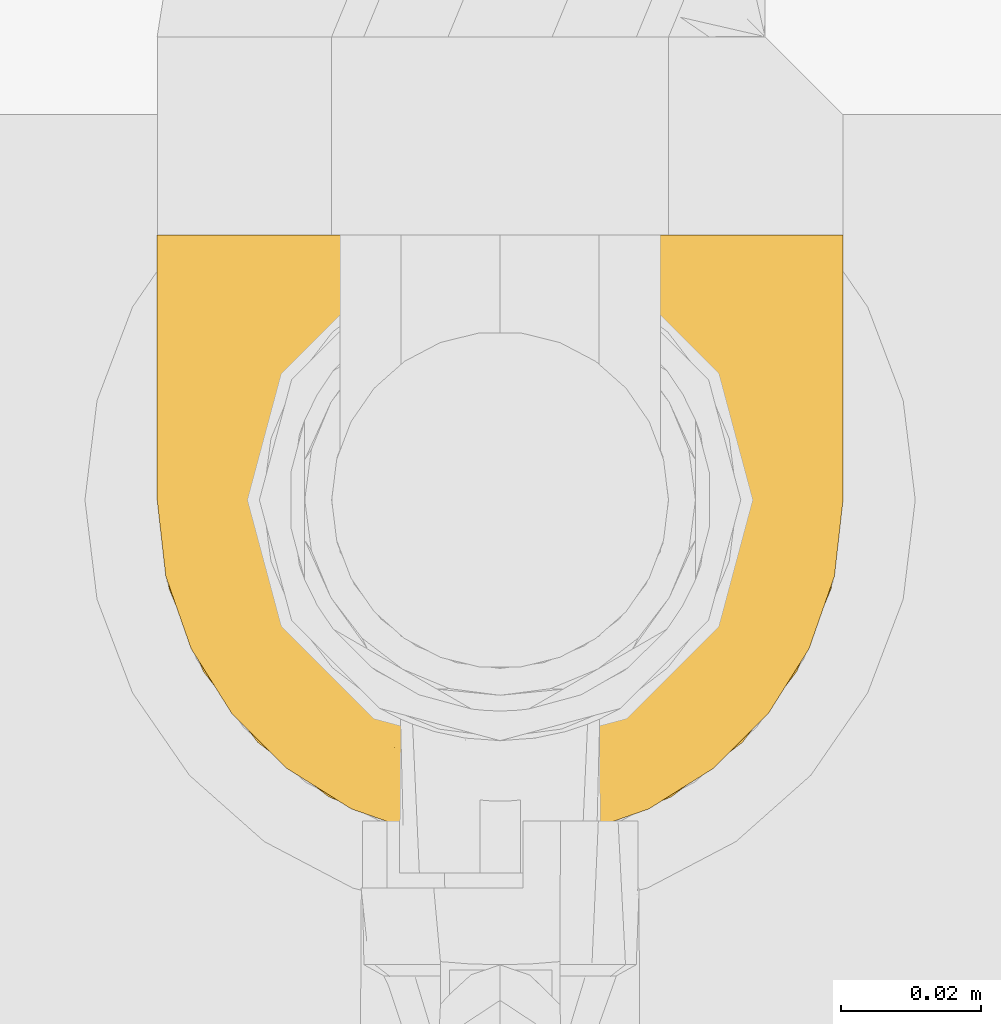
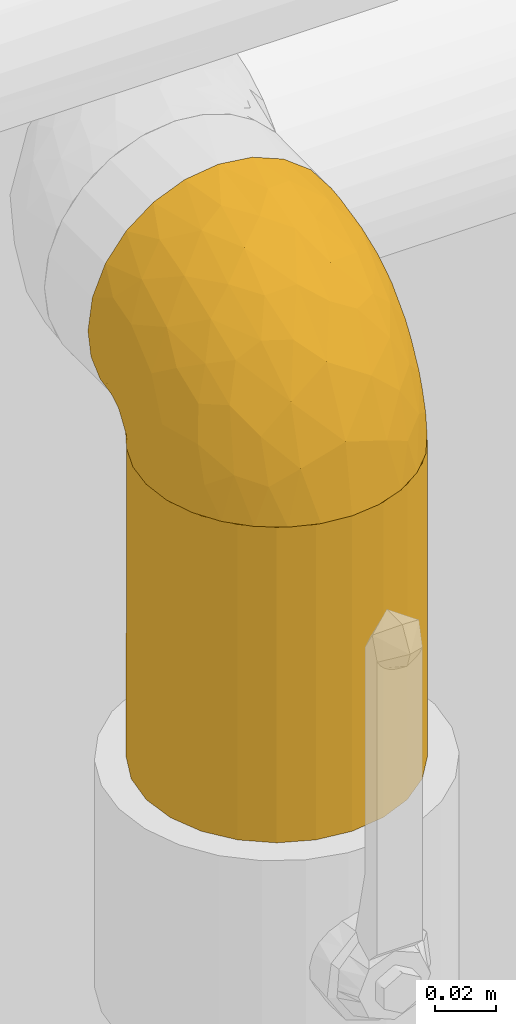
# One storey, part 22 of 94: 2 coverings.
"""IFC2X3 building model written with IfcOpenShell, lengths in millimetres."""

from ifc_helpers import new_model, entity, si_unit, converted_unit, derived_unit, direction, frame, origin, place, context, subcontext, project, spatial, faceted_brep, material, element, save


model = new_model("IFC2X3")

# Units and contexts
model_context = context("Model", 3, precision=0.01, world=origin(), true_north=direction((6.123031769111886e-17, 1.0)))
body_context = subcontext(model_context, "Body", "Model", "MODEL_VIEW")
ifc_project = project(units=[si_unit("LENGTHUNIT", "METRE", prefix="MILLI"), si_unit("AREAUNIT", "SQUARE_METRE"), si_unit("VOLUMEUNIT", "CUBIC_METRE"), converted_unit("PLANEANGLEUNIT", "DEGREE", entity("IfcRatioMeasure", 0.017453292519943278), si_unit("PLANEANGLEUNIT", "RADIAN"), dimensions=[0, 0, 0, 0, 0, 0, 0]), si_unit("MASSUNIT", "GRAM", prefix="KILO"), derived_unit("MASSDENSITYUNIT", [(si_unit("MASSUNIT", "GRAM", prefix="KILO"), 1), (si_unit("LENGTHUNIT", "METRE"), -3)]), derived_unit("IONCONCENTRATIONUNIT", [(si_unit("MASSUNIT", "GRAM", prefix="KILO"), 1), (si_unit("LENGTHUNIT", "METRE"), -3)]), derived_unit("MOMENTOFINERTIAUNIT", [(si_unit("LENGTHUNIT", "METRE"), 4)]), si_unit("TIMEUNIT", "SECOND"), si_unit("FREQUENCYUNIT", "HERTZ"), si_unit("THERMODYNAMICTEMPERATUREUNIT", "DEGREE_CELSIUS"), derived_unit("THERMALTRANSMITTANCEUNIT", [(si_unit("MASSUNIT", "GRAM", prefix="KILO"), 1), (si_unit("THERMODYNAMICTEMPERATUREUNIT", "KELVIN"), -1), (si_unit("TIMEUNIT", "SECOND"), -3)]), derived_unit("THERMALCONDUCTANCEUNIT", [(si_unit("MASSUNIT", "GRAM", prefix="KILO"), 1), (si_unit("THERMODYNAMICTEMPERATUREUNIT", "KELVIN"), -1), (si_unit("TIMEUNIT", "SECOND"), -3), (si_unit("LENGTHUNIT", "METRE"), 1)]), derived_unit("VOLUMETRICFLOWRATEUNIT", [(si_unit("LENGTHUNIT", "METRE"), 3), (si_unit("TIMEUNIT", "SECOND"), -1)]), derived_unit("MASSFLOWRATEUNIT", [(si_unit("MASSUNIT", "GRAM", prefix="KILO"), 1), (si_unit("TIMEUNIT", "SECOND"), -1)]), derived_unit("ROTATIONALFREQUENCYUNIT", [(si_unit("TIMEUNIT", "SECOND"), -1)]), si_unit("ELECTRICCURRENTUNIT", "AMPERE"), si_unit("ELECTRICVOLTAGEUNIT", "VOLT"), si_unit("POWERUNIT", "WATT"), si_unit("FORCEUNIT", "NEWTON", prefix="KILO"), si_unit("ILLUMINANCEUNIT", "LUX"), si_unit("LUMINOUSFLUXUNIT", "LUMEN"), si_unit("LUMINOUSINTENSITYUNIT", "CANDELA"), derived_unit("USERDEFINED", [(si_unit("MASSUNIT", "GRAM", prefix="KILO"), -1), (si_unit("LENGTHUNIT", "METRE"), -2), (si_unit("TIMEUNIT", "SECOND"), 3), (si_unit("LUMINOUSFLUXUNIT", "LUMEN"), 1)]), derived_unit("USERDEFINED", [(si_unit("MASSUNIT", "GRAM", prefix="KILO"), 1), (si_unit("TIMEUNIT", "SECOND"), -3), (si_unit("LENGTHUNIT", "METRE"), 3), (si_unit("ELECTRICCURRENTUNIT", "AMPERE"), -2)]), derived_unit("SOUNDPOWERUNIT", [(si_unit("MASSUNIT", "GRAM", prefix="KILO"), 1), (si_unit("TIMEUNIT", "SECOND"), -3), (si_unit("LENGTHUNIT", "METRE"), 2)]), derived_unit("SOUNDPRESSUREUNIT", [(si_unit("MASSUNIT", "GRAM", prefix="KILO"), 1), (si_unit("LENGTHUNIT", "METRE"), -1), (si_unit("TIMEUNIT", "SECOND"), -2)]), derived_unit("LINEARVELOCITYUNIT", [(si_unit("LENGTHUNIT", "METRE"), 1), (si_unit("TIMEUNIT", "SECOND"), -1)]), si_unit("PRESSUREUNIT", "PASCAL"), derived_unit("USERDEFINED", [(si_unit("MASSUNIT", "GRAM", prefix="KILO"), 1), (si_unit("LENGTHUNIT", "METRE"), -2), (si_unit("TIMEUNIT", "SECOND"), -2)]), derived_unit("LINEARFORCEUNIT", [(si_unit("MASSUNIT", "GRAM", prefix="KILO"), 1), (si_unit("TIMEUNIT", "SECOND"), -2)]), derived_unit("PLANARFORCEUNIT", [(si_unit("MASSUNIT", "GRAM", prefix="KILO"), 1), (si_unit("LENGTHUNIT", "METRE"), -1), (si_unit("TIMEUNIT", "SECOND"), -2)]), derived_unit("SPECIFICHEATCAPACITYUNIT", [(si_unit("THERMODYNAMICTEMPERATUREUNIT", "KELVIN"), -1), (si_unit("LENGTHUNIT", "METRE"), 2), (si_unit("TIMEUNIT", "SECOND"), -2)]), derived_unit("HEATINGVALUEUNIT", [(si_unit("LENGTHUNIT", "METRE"), 2), (si_unit("TIMEUNIT", "SECOND"), -2)]), derived_unit("VAPORPERMEABILITYUNIT", [(si_unit("LENGTHUNIT", "METRE"), -1), (si_unit("TIMEUNIT", "SECOND"), 1)]), derived_unit("DYNAMICVISCOSITYUNIT", [(si_unit("MASSUNIT", "GRAM", prefix="KILO"), 1), (si_unit("TIMEUNIT", "SECOND"), -1), (si_unit("LENGTHUNIT", "METRE"), -1)]), derived_unit("THERMALEXPANSIONCOEFFICIENTUNIT", [(si_unit("THERMODYNAMICTEMPERATUREUNIT", "KELVIN"), -1)]), derived_unit("MODULUSOFELASTICITYUNIT", [(si_unit("MASSUNIT", "GRAM", prefix="KILO"), 1), (si_unit("LENGTHUNIT", "METRE"), -1), (si_unit("TIMEUNIT", "SECOND"), -2)]), derived_unit("ISOTHERMALMOISTURECAPACITYUNIT", [(si_unit("LENGTHUNIT", "METRE"), 3), (si_unit("MASSUNIT", "GRAM", prefix="KILO"), -1)]), derived_unit("MOISTUREDIFFUSIVITYUNIT", [(si_unit("TIMEUNIT", "SECOND"), -1), (si_unit("LENGTHUNIT", "METRE"), 2)])], contexts=[model_context])

# Site, building, storey
site_placement = place(None, origin())
site = spatial("IfcSite", under=ifc_project, at=site_placement, Name="Default", CompositionType="ELEMENT")
building_placement = place(site_placement, origin())
building = spatial("IfcBuilding", under=site, at=building_placement, CompositionType="ELEMENT")
storey_placement = place(building_placement, origin())
storey = spatial("IfcBuildingStorey", under=building, at=storey_placement, Name="Niveau 0", CompositionType="ELEMENT", Elevation=0.0)

# Coverings
ifc_material = material(Name="Isolation - Laine minérale")
covering_1_placement = place(storey_placement, frame((-8122.891137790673, 9871.725273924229, 2410.404727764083)))
element("IfcCovering", 1, at=covering_1_placement, inside=storey, material=ifc_material, Name="Isolation des canalisations:Laine minérale", ObjectType="Isolation des canalisations:Laine minérale", PredefinedType="INSULATION", context=body_context, shape_type="Brep", body=[
    faceted_brep([(95.02415814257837, 29.412134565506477, 1.595272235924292), (89.16631019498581, 20.093252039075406, 1.595272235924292), (81.38263886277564, 12.31254833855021, 1.595272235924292), (72.06354573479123, 6.459227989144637, 1.595272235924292), (61.67593083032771, 2.8261403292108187, 1.595272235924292), (50.74527223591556, 1.5952722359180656, 1.595272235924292), (39.80290363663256, 2.8288129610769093, 1.595272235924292), (29.41213456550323, 6.4663863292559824, 1.595272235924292), (20.093252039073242, 12.324234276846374, 1.595272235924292), (12.31254833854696, 20.10790560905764, 1.595272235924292), (6.459227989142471, 29.42699873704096, 1.595272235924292), (2.826140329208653, 39.81461364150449, 1.595272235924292), (1.5952722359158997, 50.74527223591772, 1.595272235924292), (2.765001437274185, 61.404358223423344, 1.595272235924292), (6.216868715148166, 71.55257335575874, 1.595272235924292), (11.785042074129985, 80.70896636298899, 1.595272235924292), (19.19437336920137, 88.43165280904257, 1.595272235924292), (21.63864226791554, 88.43165280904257, 1.595272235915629), (23.415694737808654, 88.43165280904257, 1.5952722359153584), (25.192747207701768, 88.43165280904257, 1.595272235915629), (26.692340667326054, 88.43165280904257, 1.595272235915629), (28.191934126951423, 88.43165280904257, 1.5952722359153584), (31.191121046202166, 88.43165280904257, 1.5952722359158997), (34.19030796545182, 88.43165280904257, 1.595272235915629), (37.18949488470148, 88.43165280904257, 1.595272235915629), (40.18868180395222, 88.43165280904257, 1.595272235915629), (41.68827526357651, 88.43165280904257, 1.595272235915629), (43.18786872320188, 88.43165280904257, 1.595272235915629), (45.63213762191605, 88.43165280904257, 1.5952722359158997), (48.07640652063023, 88.43165280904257, 1.5952722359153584), (50.5206754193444, 88.43165280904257, 1.595272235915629), (52.96494431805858, 88.43165280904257, 1.5952722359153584), (55.40921321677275, 88.43165280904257, 1.5952722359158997), (57.853482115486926, 88.43165280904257, 1.595272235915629), (60.2977510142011, 88.43165280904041, 1.595272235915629), (62.74201991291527, 88.43165280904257, 1.595272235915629), (65.18628881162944, 88.43165280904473, 1.595272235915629), (67.63055771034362, 88.43165280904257, 1.595272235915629), (70.07482660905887, 88.43165280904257, 1.5952722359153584), (72.51909550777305, 88.43165280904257, 1.5952722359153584), (74.96336440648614, 88.43165280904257, 1.5952722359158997), (77.4076333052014, 88.43165280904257, 1.595272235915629), (79.85190220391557, 88.43165280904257, 1.595272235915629), (82.29617110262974, 88.43165280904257, 1.595272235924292), (89.71827412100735, 80.69235262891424, 1.595272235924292), (95.28368576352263, 71.53113811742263, 1.595272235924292), (98.73008326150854, 61.383900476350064, 1.595272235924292), (99.89527223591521, 50.74527223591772, 1.595272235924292), (98.66173151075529, 39.802903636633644, 1.595272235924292), (11.777056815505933, 88.74527223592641, 9.641963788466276), (6.211862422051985, 88.74527223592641, 18.798688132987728), (2.7632985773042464, 88.74527223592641, 28.94385431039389), (1.5952722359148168, 88.74527223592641, 39.59527223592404), (3.270017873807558, 88.74527223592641, 52.31622830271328), (8.18012363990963, 88.74527223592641, 64.17027223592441), (15.990973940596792, 88.74527223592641, 74.3495705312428), (26.17027223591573, 88.74527223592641, 82.16042083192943), (38.02431616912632, 88.74527223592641, 87.07052659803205), (50.74527223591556, 88.74527223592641, 88.74527223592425), (63.466228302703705, 88.74527223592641, 87.07052659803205), (75.32027223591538, 88.74527223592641, 82.16042083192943), (85.49957053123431, 88.74527223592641, 74.3495705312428), (93.3104208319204, 88.74527223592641, 64.17027223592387), (98.22052659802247, 88.74527223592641, 52.31622830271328), (99.89527223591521, 88.74527223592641, 39.59527223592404), (98.72724589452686, 88.74527223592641, 28.94385431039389), (95.27868204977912, 88.74527223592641, 18.798688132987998), (89.71348765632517, 88.74527223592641, 9.641963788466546), (82.29617110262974, 88.74527223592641, 1.908891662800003), (79.85190220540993, 88.74527223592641, 1.908891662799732), (78.3523087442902, 88.74527223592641, 1.908891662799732), (76.3803775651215, 88.74527223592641, 1.908891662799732), (74.40844638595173, 88.74527223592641, 1.908891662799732), (72.43651520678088, 88.74527223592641, 1.908891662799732), (70.46458402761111, 88.74527223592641, 1.908891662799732), (68.49265284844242, 88.74527223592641, 1.908891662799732), (66.52072166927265, 88.74527223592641, 1.908891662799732), (64.54879049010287, 88.74527223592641, 1.908891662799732), (62.5768593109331, 88.74527223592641, 1.908891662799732), (60.60492813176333, 88.74527223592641, 1.908891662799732), (58.63299695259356, 88.74527223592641, 1.908891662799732), (56.661065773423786, 88.74527223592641, 1.908891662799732), (54.6891345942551, 88.74527223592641, 1.908891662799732), (52.71720341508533, 88.74527223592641, 1.908891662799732), (50.74527223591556, 88.74527223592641, 1.908891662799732), (48.773341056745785, 88.74527223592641, 1.908891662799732), (46.80140987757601, 88.74527223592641, 1.908891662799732), (44.82947869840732, 88.74527223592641, 1.908891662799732), (42.85754751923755, 88.74527223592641, 1.908891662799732), (40.88561634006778, 88.74527223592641, 1.908891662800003), (38.913685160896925, 88.74527223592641, 1.908891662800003), (36.94175398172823, 88.74527223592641, 1.908891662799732), (34.96982280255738, 88.74527223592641, 1.908891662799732), (31.97063588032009, 88.74527223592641, 1.908891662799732), (28.971448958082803, 88.74527223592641, 1.908891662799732), (26.527180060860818, 88.74527223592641, 1.908891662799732), (24.082911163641, 88.74527223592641, 1.908891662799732), (21.638642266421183, 88.74527223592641, 1.908891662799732), (19.19437336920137, 88.74527223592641, 1.908891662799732), (53.75333970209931, 88.53090125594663, 1.8241875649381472), (51.832765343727, 88.52210831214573, 1.815624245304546), (61.47290163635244, 88.52122178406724, 1.8147227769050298), (63.56282540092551, 88.52777998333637, 1.8212241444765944), (48.00102702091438, 88.54092532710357, 1.8331787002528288), (77.24999397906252, 88.53506454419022, 1.828016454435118), (80.69913834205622, 88.49130573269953, 1.7792781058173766), (42.43807145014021, 88.51810292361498, 1.8114926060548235), (22.860776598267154, 88.52350981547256, 1.8170346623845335), (24.70021643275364, 88.52548149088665, 1.8189889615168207), (71.3700895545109, 88.51653277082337, 1.8098308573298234), (73.40383885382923, 88.52674320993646, 1.820221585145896), (44.410002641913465, 88.50469006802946, 1.796462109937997), (37.92771907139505, 88.52964682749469, 1.8230063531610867), (39.81308540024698, 88.53317608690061, 1.8262968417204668), (35.95578792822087, 88.51585328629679, 1.8091041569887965), (49.75930651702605, 88.52914218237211, 1.8225274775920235), (21.02757498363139, 88.52591800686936, 1.8194169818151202), (55.67510065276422, 88.53664906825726, 1.8294378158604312), (67.50668767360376, 88.53747885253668, 1.8301744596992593), (65.61454699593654, 88.53273195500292, 1.8258883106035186), (34.10458092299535, 88.53426299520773, 1.8272900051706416), (57.55217518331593, 88.53370000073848, 1.8267767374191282), (79.10210557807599, 88.52350981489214, 1.8170346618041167), (75.39441218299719, 88.53493173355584, 1.8278964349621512), (82.29617110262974, 88.52350981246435, 1.8170346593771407), (82.29617110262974, 88.4948797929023, 1.747915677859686), (82.29617110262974, 88.46624977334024, 1.6787966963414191), (19.19437336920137, 88.52350981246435, 1.8170346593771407), (19.19437336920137, 88.59262879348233, 1.8456646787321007), (19.19437336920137, 88.66174777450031, 1.87429469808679), (32.212157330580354, 88.5100064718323, 1.802653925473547), (69.4355922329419, 88.53042484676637, 1.823740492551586), (46.24828797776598, 88.52246762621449, 1.8159875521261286), (59.49061335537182, 88.52470424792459, 1.8182226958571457), (29.41925201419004, 88.50579329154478, 1.7977740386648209), (27.44213716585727, 88.5274414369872, 1.8208977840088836), (82.29617110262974, 88.66174777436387, 1.8742946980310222), (82.29617110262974, 88.59262879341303, 1.8456646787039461), (19.19437336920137, 88.46624977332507, 1.6787966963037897), (19.19437336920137, 88.4948797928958, 1.7479156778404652), (4.210283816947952, 85.22080157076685, 23.495219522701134), (8.744179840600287, 85.93611072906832, 13.747756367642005), (4.210283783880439, 81.07807843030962, 22.409779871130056), (9.955583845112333, 83.13289242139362, 10.562522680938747), (1.5952722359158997, 79.24527223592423, 37.049754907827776), (1.5952722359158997, 81.2889022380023, 37.5973439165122), (1.5952722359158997, 55.83630689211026, 20.5952722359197), (2.93549782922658, 66.39553001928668, 16.020149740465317), (4.213452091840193, 67.9404040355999, 9.261677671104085), (1.5952722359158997, 69.74527223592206, 34.50423757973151), (9.405305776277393, 80.67378389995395, 9.667897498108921), (9.963487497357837, 79.78892094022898, 7.202912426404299), (2.9356418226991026, 74.32109358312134, 23.94474674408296), (4.213452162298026, 66.85470593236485, 5.119390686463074), (8.750654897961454, 76.603363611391, 4.402893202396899), (5.690627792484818, 79.64911936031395, 17.541506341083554), (1.5952722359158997, 52.743200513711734, 9.051642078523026), (1.5952722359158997, 53.29078956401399, 11.09527223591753), (4.482619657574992, 73.61168493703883, 16.728859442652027), (1.5952722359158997, 62.790789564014, 27.54975490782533), (5.766057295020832, 73.87988529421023, 12.071559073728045), (2.6117250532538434, 75.32913676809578, 47.62395095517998), (2.657531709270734, 65.9107418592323, 44.0014411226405), (11.131578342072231, 53.84761415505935, 58.899698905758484), (20.82464790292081, 59.13651173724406, 72.6677148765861), (11.7519547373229, 71.16612245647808, 67.20155656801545), (5.336592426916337, 67.0054527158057, 54.0798422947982), (5.336592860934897, 78.8805128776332, 57.54110754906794), (50.74527223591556, 37.51978749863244, 72.10110329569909), (50.74527223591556, 61.81444117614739, 84.47984763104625), (40.339739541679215, 53.875201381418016, 80.24801351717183), (9.124243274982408, 25.784943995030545, 13.851436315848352), (4.351045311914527, 36.2441827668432, 15.165285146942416), (32.64695426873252, 29.562882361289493, 60.7776584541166), (23.768909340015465, 30.77068194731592, 55.385836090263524), (35.61531809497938, 15.292222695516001, 43.89737524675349), (41.696133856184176, 71.31385843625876, 86.1264811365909), (30.50981773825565, 47.24102741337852, 73.23168363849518), (21.748430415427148, 43.50389303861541, 64.74738573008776), (20.824647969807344, 75.28985257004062, 77.40373146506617), (31.93638275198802, 67.10273039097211, 82.14716981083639), (15.984346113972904, 37.09920094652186, 52.82911549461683), (9.509703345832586, 44.51517687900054, 48.878965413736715), (11.405769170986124, 33.70477633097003, 40.607220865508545), (3.7235321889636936, 44.05169469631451, 28.76995319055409), (9.124242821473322, 30.044081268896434, 27.44844566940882), (15.984347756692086, 18.312338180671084, 19.800365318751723), (50.74527223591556, 5.8606968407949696, 28.52610329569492), (34.50535109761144, 7.04140620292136, 22.71562192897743), (18.535934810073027, 25.61446965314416, 42.31748570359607), (24.588194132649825, 15.886915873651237, 33.6838277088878), (24.588193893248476, 10.600409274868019, 16.806973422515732), (39.07585882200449, 38.50378416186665, 71.07858054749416), (42.346184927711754, 25.345180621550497, 60.332491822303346), (2.5632520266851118, 53.163504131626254, 33.37332146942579), (50.74527223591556, 18.239441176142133, 52.82075697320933), (4.722449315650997, 52.69469876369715, 43.46542968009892), (69.5541610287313, 58.17589226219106, 79.20017463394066), (59.5851078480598, 71.70091272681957, 86.2448880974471), (59.865425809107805, 54.57433327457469, 80.83807017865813), (66.13789702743, 42.49805076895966, 72.52816019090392), (69.55416221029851, 75.06235489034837, 83.87397883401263), (85.49332197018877, 24.5251412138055, 35.798660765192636), (78.98858976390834, 25.786342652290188, 48.02046276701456), (76.88743080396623, 15.878231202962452, 33.68736739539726), (85.49294527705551, 37.08979212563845, 52.83844921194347), (78.28666517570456, 35.71336208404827, 59.755981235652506), (97.13479117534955, 36.23150879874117, 15.170016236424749), (98.95303587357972, 70.53804152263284, 45.55141709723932), (99.89527223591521, 69.74527223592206, 34.50423757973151), (99.89527223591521, 79.24527223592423, 37.049754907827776), (66.97173870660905, 7.0362994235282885, 22.71467774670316), (80.66589652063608, 69.24086116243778, 76.07714087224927), (92.35692696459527, 30.03051209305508, 27.454651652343), (92.35692651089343, 25.770245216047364, 13.854008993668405), (89.73858944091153, 76.87540408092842, 68.47065883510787), (96.15395178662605, 74.00473445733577, 56.45843349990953), (79.62483877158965, 48.41047025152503, 68.08854506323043), (89.7385902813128, 62.62553049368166, 64.29272071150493), (59.508159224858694, 31.220776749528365, 66.01125638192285), (68.8345286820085, 29.560345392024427, 60.78019542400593), (99.01263503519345, 79.82666983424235, 48.01911236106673), (76.887431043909, 10.591274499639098, 16.809109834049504), (65.85652255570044, 15.28724730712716, 43.900853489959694), (85.49294363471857, 18.29950680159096, 19.80368192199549), (97.76388503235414, 44.04987097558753, 28.786726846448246), (99.89527223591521, 55.83630689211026, 20.59527223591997), (98.78930951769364, 54.23536248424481, 35.48506655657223), (99.89527223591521, 62.790789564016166, 27.549754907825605), (99.89527223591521, 52.74320051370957, 9.051642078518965), (99.89527223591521, 53.29078956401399, 11.0952722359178), (91.50386042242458, 48.41211537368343, 53.16291239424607), (96.42683125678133, 64.14304703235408, 52.05308452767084), (93.1499194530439, 40.10640265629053, 41.401037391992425), (99.08337182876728, 62.89073418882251, 40.721221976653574), (86.09107557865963, 47.672778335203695, 60.9167754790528), (96.67816905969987, 55.3895582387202, 45.94061161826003), (97.28026029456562, 81.07807840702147, 22.409778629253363), (95.72662397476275, 78.26566497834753, 16.464254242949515), (98.5546584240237, 74.3207291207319, 23.943292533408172), (97.28026045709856, 85.22080145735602, 23.495218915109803), (92.74636428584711, 85.93611080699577, 13.747755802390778), (91.53641117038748, 83.13257230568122, 10.56486790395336), (90.1127562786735, 82.6819800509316, 7.656624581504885), (97.0051951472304, 73.61706381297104, 16.723481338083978), (91.54965419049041, 79.75777141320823, 7.216517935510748), (97.2842704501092, 67.9184535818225, 9.263185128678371), (97.28427059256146, 66.83334757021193, 5.119593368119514), (92.75147496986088, 76.5844900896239, 4.405878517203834), (98.55441347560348, 66.39770760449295, 16.01862728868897), (95.80583125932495, 72.7838259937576, 10.692146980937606)], [[[0, 1, 2, 3, 4, 5, 6, 7, 8, 9, 10, 11, 12, 13, 14, 15, 16, 17, 18, 19, 20, 21, 22, 23, 24, 25, 26, 27, 28, 29, 30, 31, 32, 33, 34, 35, 36, 37, 38, 39, 40, 41, 42, 43, 44, 45, 46, 47, 48]], [[49, 50, 51, 52, 53, 54, 55, 56, 57, 58, 59, 60, 61, 62, 63, 64, 65, 66, 67, 68, 69, 70, 71, 72, 73, 74, 75, 76, 77, 78, 79, 80, 81, 82, 83, 84, 85, 86, 87, 88, 89, 90, 91, 92, 93, 94, 95, 96, 97, 98]], [[99, 100, 83]], [[101, 102, 35]], [[85, 103, 86]], [[71, 70, 104]], [[105, 69, 68]], [[27, 26, 106]], [[18, 107, 108]], [[109, 73, 110]], [[28, 27, 111]], [[25, 112, 113]], [[108, 96, 95]], [[114, 92, 91]], [[103, 85, 115]], [[96, 107, 97]], [[107, 17, 116]], [[78, 102, 101]], [[99, 117, 32]], [[76, 118, 119]], [[120, 92, 114]], [[112, 90, 113]], [[88, 111, 106]], [[40, 39, 110]], [[107, 96, 108]], [[32, 117, 121]], [[91, 90, 112]], [[37, 119, 118]], [[84, 115, 85]], [[69, 105, 122]], [[71, 123, 72]], [[105, 124, 125, 126, 43]], [[116, 17, 16]], [[122, 70, 69]], [[41, 122, 42]], [[116, 127, 128, 129, 98]], [[110, 123, 40]], [[42, 122, 105]], [[120, 23, 130]], [[24, 114, 112]], [[114, 24, 23]], [[104, 123, 71]], [[91, 112, 114]], [[104, 122, 41]], [[24, 112, 25]], [[110, 72, 123]], [[36, 119, 37]], [[40, 123, 41]], [[74, 73, 109]], [[131, 75, 74]], [[118, 131, 37]], [[109, 110, 39]], [[109, 39, 38]], [[73, 72, 110]], [[123, 104, 41]], [[122, 104, 70]], [[26, 25, 113]], [[113, 89, 106]], [[87, 86, 132]], [[113, 106, 26]], [[76, 75, 118]], [[132, 111, 87]], [[106, 111, 27]], [[132, 28, 111]], [[87, 111, 88]], [[88, 106, 89]], [[113, 90, 89]], [[131, 118, 75]], [[38, 37, 131]], [[119, 36, 102]], [[131, 109, 38]], [[109, 131, 74]], [[78, 77, 102]], [[77, 119, 102]], [[77, 76, 119]], [[121, 80, 133]], [[36, 35, 102]], [[33, 121, 133]], [[79, 78, 101]], [[34, 101, 35]], [[132, 29, 28]], [[80, 79, 133]], [[29, 103, 115]], [[30, 29, 115]], [[86, 103, 132]], [[100, 115, 84]], [[31, 30, 100]], [[115, 100, 30]], [[32, 31, 99]], [[117, 81, 121]], [[100, 84, 83]], [[99, 82, 117]], [[81, 117, 82]], [[33, 32, 121]], [[82, 99, 83]], [[100, 99, 31]], [[34, 33, 133]], [[121, 81, 80]], [[133, 101, 34]], [[101, 133, 79]], [[134, 94, 93]], [[23, 120, 114]], [[132, 103, 29]], [[120, 93, 92]], [[93, 120, 130]], [[97, 107, 116]], [[108, 20, 19, 18]], [[21, 135, 134]], [[20, 135, 21]], [[134, 135, 94]], [[108, 95, 135]], [[108, 135, 20]], [[135, 95, 94]], [[134, 22, 21]], [[130, 22, 134]], [[42, 105, 43]], [[105, 68, 136, 137, 124]], [[97, 116, 98]], [[116, 16, 138, 139, 127]], [[18, 17, 107]], [[93, 130, 134]], [[22, 130, 23]], [[140, 141, 142]], [[143, 129, 128, 127]], [[51, 144, 145, 52]], [[146, 147, 148]], [[142, 149, 144]], [[150, 127, 151]], [[50, 140, 51]], [[142, 152, 149]], [[51, 140, 144]], [[129, 143, 141]], [[14, 13, 153]], [[148, 151, 154]], [[155, 141, 143]], [[151, 138, 154]], [[14, 153, 154]], [[16, 15, 138]], [[13, 12, 156, 157]], [[152, 155, 158]], [[159, 158, 147]], [[157, 148, 153]], [[14, 154, 15]], [[49, 98, 129]], [[49, 129, 141]], [[141, 50, 49]], [[160, 148, 147]], [[146, 148, 157]], [[138, 15, 154]], [[150, 158, 155]], [[151, 127, 139, 138]], [[141, 140, 50]], [[144, 140, 142]], [[157, 153, 13]], [[154, 153, 148]], [[149, 152, 159]], [[160, 147, 158]], [[147, 146, 159]], [[155, 152, 142]], [[159, 152, 158]], [[127, 150, 143]], [[160, 150, 151]], [[150, 160, 158]], [[148, 160, 151]], [[141, 155, 142]], [[155, 143, 150]], [[156, 12, 11]], [[161, 149, 162]], [[163, 164, 165]], [[166, 167, 161]], [[168, 169, 170]], [[54, 165, 55]], [[171, 172, 10]], [[173, 174, 175]], [[57, 176, 58]], [[173, 177, 178]], [[179, 56, 55]], [[54, 167, 165]], [[170, 180, 177]], [[56, 179, 180]], [[167, 54, 53]], [[181, 182, 183]], [[184, 146, 172]], [[172, 185, 184]], [[186, 185, 171]], [[186, 9, 8]], [[172, 146, 157, 156]], [[172, 11, 10]], [[173, 178, 174]], [[6, 187, 188]], [[189, 186, 190]], [[191, 186, 8]], [[175, 190, 188]], [[168, 192, 193]], [[189, 190, 174]], [[56, 180, 57]], [[8, 7, 191]], [[188, 7, 6]], [[6, 5, 187]], [[190, 191, 188]], [[159, 194, 162]], [[175, 187, 195]], [[177, 180, 164]], [[10, 9, 171]], [[176, 180, 170]], [[156, 11, 172]], [[163, 165, 166]], [[179, 165, 164]], [[53, 52, 145]], [[185, 189, 183]], [[184, 196, 194]], [[188, 191, 7]], [[186, 191, 190]], [[186, 171, 9]], [[172, 171, 185]], [[187, 175, 188]], [[193, 175, 195]], [[196, 163, 166]], [[163, 181, 178]], [[162, 166, 161]], [[184, 185, 183]], [[178, 177, 164]], [[177, 192, 170]], [[177, 173, 192]], [[176, 170, 169]], [[58, 176, 169]], [[57, 180, 176]], [[193, 192, 173]], [[168, 170, 192]], [[175, 193, 173]], [[168, 193, 195]], [[163, 178, 164]], [[184, 194, 146]], [[178, 181, 174]], [[189, 174, 181]], [[175, 174, 190]], [[183, 189, 181]], [[186, 189, 185]], [[182, 181, 163]], [[183, 182, 184]], [[163, 196, 182]], [[184, 182, 196]], [[165, 179, 55]], [[180, 179, 164]], [[161, 53, 145]], [[165, 167, 166]], [[53, 161, 167]], [[161, 145, 144, 149]], [[159, 162, 149]], [[196, 166, 162]], [[162, 194, 196]], [[146, 194, 159]], [[197, 198, 199]], [[58, 169, 198]], [[197, 199, 200]], [[198, 197, 201]], [[202, 203, 204]], [[60, 59, 201]], [[205, 206, 203]], [[0, 48, 207]], [[208, 209, 210]], [[187, 4, 211]], [[201, 212, 60]], [[213, 214, 207]], [[61, 215, 62]], [[62, 215, 216]], [[3, 211, 4]], [[217, 218, 212]], [[219, 220, 200]], [[216, 208, 221]], [[3, 2, 222]], [[62, 216, 63]], [[61, 60, 212]], [[211, 3, 222]], [[5, 4, 187]], [[217, 197, 200]], [[203, 223, 204]], [[2, 1, 224]], [[225, 213, 207]], [[204, 222, 224]], [[1, 0, 214]], [[204, 224, 202]], [[207, 226, 225]], [[227, 226, 228]], [[223, 211, 204]], [[214, 224, 1]], [[202, 224, 213]], [[48, 47, 229]], [[207, 229, 230, 226]], [[211, 223, 187]], [[218, 231, 232]], [[48, 229, 207]], [[205, 233, 231]], [[233, 213, 225]], [[217, 212, 197]], [[215, 212, 218]], [[228, 234, 227]], [[233, 205, 202]], [[208, 234, 209]], [[63, 221, 64]], [[235, 205, 231]], [[207, 214, 0]], [[224, 214, 213]], [[224, 222, 2]], [[211, 222, 204]], [[219, 223, 220]], [[187, 223, 195]], [[227, 233, 225]], [[234, 228, 209]], [[231, 233, 236]], [[221, 208, 210]], [[232, 208, 216]], [[64, 221, 210]], [[216, 221, 63]], [[233, 202, 213]], [[203, 202, 205]], [[205, 235, 206]], [[223, 203, 220]], [[200, 206, 217]], [[220, 203, 206]], [[232, 231, 236]], [[235, 218, 217]], [[212, 215, 61]], [[216, 215, 218]], [[218, 232, 216]], [[234, 232, 236]], [[232, 234, 208]], [[234, 236, 227]], [[233, 227, 236]], [[226, 227, 225]], [[198, 201, 59]], [[212, 201, 197]], [[58, 198, 59]], [[198, 169, 199]], [[169, 168, 199]], [[219, 200, 199]], [[219, 199, 168]], [[200, 220, 206]], [[168, 195, 219]], [[223, 219, 195]], [[218, 235, 231]], [[206, 235, 217]], [[65, 64, 210]], [[209, 237, 210]], [[238, 237, 239]], [[66, 240, 241]], [[242, 136, 241]], [[243, 137, 242]], [[243, 244, 245]], [[65, 240, 66]], [[136, 68, 67]], [[136, 67, 241]], [[246, 226, 230]], [[66, 241, 67]], [[210, 237, 240]], [[45, 247, 46]], [[209, 239, 237]], [[246, 247, 248]], [[46, 247, 230]], [[249, 250, 244]], [[239, 228, 244]], [[226, 246, 249]], [[250, 248, 245]], [[44, 43, 126]], [[237, 242, 241]], [[248, 45, 44]], [[44, 126, 248]], [[46, 230, 229, 47]], [[245, 126, 125]], [[126, 245, 248]], [[243, 124, 137]], [[210, 240, 65]], [[241, 240, 237]], [[248, 247, 45]], [[230, 247, 246]], [[226, 249, 228]], [[238, 239, 244]], [[239, 209, 228]], [[250, 249, 246]], [[228, 249, 244]], [[243, 242, 238]], [[136, 242, 137]], [[124, 243, 125]], [[125, 243, 245]], [[243, 238, 244]], [[237, 238, 242]], [[248, 250, 246]], [[244, 250, 245]]]),
])
covering_2_placement = place(storey_placement, frame((-8122.871137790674, 9871.74527392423, 2413.5952722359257)))
element("IfcCovering", 2, at=covering_2_placement, inside=storey, material=ifc_material, Name="Isolation des canalisations:Laine minérale", ObjectType="Isolation des canalisations:Laine minérale", PredefinedType="INSULATION", context=body_context, shape_type="Brep", body=[
    faceted_brep([(93.2731003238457, 26.160272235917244, -1.5952722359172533), (98.18120808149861, 38.00949255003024, -1.595272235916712), (99.85527223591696, 50.72527223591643, -1.5952722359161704), (98.65694811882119, 61.51004608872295, -1.595272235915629), (95.1273794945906, 71.75405657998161, -1.595272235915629), (89.43799982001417, 80.97558831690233, -1.5952722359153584), (81.8661922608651, 88.72527223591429, -1.5952722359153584), (19.58435221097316, 88.72527223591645, -1.5952722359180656), (12.012544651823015, 80.9755883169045, -1.5952722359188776), (6.323164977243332, 71.75405657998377, -1.5952722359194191), (2.793596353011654, 61.51004608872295, -1.5952722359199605), (1.5952722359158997, 50.72527223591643, -1.5952722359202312), (3.26933639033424, 38.00949255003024, -1.5952722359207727), (8.17744414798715, 26.160272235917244, -1.5952722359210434), (15.985116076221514, 15.98511607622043, -1.5952722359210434), (26.160272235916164, 8.17744414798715, -1.5952722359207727), (38.00949255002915, 3.26933639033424, -1.595272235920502), (50.72527223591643, 1.5952722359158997, -1.5952722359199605), (63.4410519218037, 3.26933639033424, -1.5952722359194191), (75.29027223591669, 8.17744414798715, -1.595272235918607), (85.46542839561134, 15.98511607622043, -1.5952722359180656), (98.18120808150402, 63.441051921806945, -127.13005113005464), (99.85527223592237, 50.725272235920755, -127.13005113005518), (98.18120808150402, 38.009492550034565, -127.13005113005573), (93.27310032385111, 26.16027223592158, -127.13005113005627), (85.46542839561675, 15.985116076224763, -127.13005113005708), (75.2902722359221, 8.17744414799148, -127.13005113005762), (63.44105192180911, 3.2693363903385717, -127.13005113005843), (50.72527223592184, 1.5952722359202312, -127.13005113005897), (38.009492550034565, 3.2693363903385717, -127.13005113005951), (26.16027223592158, 8.17744414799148, -127.13005113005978), (15.985116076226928, 15.985116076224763, -127.13005113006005), (8.177444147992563, 26.16027223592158, -127.13005113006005), (3.2693363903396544, 38.009492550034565, -127.13005113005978), (1.595272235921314, 50.725272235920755, -127.13005113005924), (3.2693363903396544, 63.441051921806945, -127.1300511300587), (8.177444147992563, 75.29027223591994, -127.13005113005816), (15.985116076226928, 85.46542839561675, -127.13005113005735), (26.16027223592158, 93.27310032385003, -127.13005113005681), (38.009492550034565, 98.18120808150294, -127.130051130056), (50.72527223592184, 99.85527223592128, -127.13005113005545), (63.44105192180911, 98.18120808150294, -127.13005113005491), (75.2902722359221, 93.27310032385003, -127.13005113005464), (85.46542839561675, 85.46542839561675, -127.13005113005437), (93.27310032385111, 75.29027223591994, -127.13005113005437), (67.26033951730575, 96.98917230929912, -9.859172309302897), (59.116085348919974, 99.1334446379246, -12.00344463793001), (50.72527223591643, 99.85527223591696, -12.725272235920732), (74.91872078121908, 93.48546338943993, -6.355463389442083), (42.33445912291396, 99.13344463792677, -12.00344463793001), (34.19020495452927, 96.98917230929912, -9.85917230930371), (26.531823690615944, 93.48546338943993, -6.355463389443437)], [[[0, 1, 2, 3, 4, 5, 6, 7, 8, 9, 10, 11, 12, 13, 14, 15, 16, 17, 18, 19, 20]], [[21, 22, 23, 24, 25, 26, 27, 28, 29, 30, 31, 32, 33, 34, 35, 36, 37, 38, 39, 40, 41, 42, 43, 44]], [[22, 21, 3]], [[21, 44, 4]], [[5, 44, 43]], [[3, 2, 22]], [[4, 3, 21]], [[44, 5, 4]], [[43, 6, 5]], [[45, 42, 41]], [[41, 40, 46]], [[47, 46, 40]], [[48, 6, 42]], [[46, 45, 41]], [[48, 42, 45]], [[42, 6, 43]], [[49, 47, 40]], [[49, 40, 39]], [[50, 39, 38]], [[50, 49, 39]], [[7, 51, 38]], [[50, 38, 51]], [[38, 37, 7]], [[8, 37, 36]], [[9, 36, 35]], [[10, 35, 34]], [[8, 36, 9]], [[9, 35, 10]], [[34, 11, 10]], [[37, 8, 7]], [[12, 11, 34, 33]], [[13, 12, 33, 32]], [[32, 31, 14, 13]], [[16, 15, 30, 29]], [[17, 16, 29, 28]], [[31, 30, 15, 14]], [[18, 17, 28, 27]], [[19, 18, 27, 26]], [[26, 25, 20, 19]], [[1, 0, 24, 23]], [[2, 1, 23, 22]], [[25, 24, 0, 20]], [[45, 46, 47, 49, 50, 51, 7, 6, 48]]]),
])

save(model, "model.ifc")
